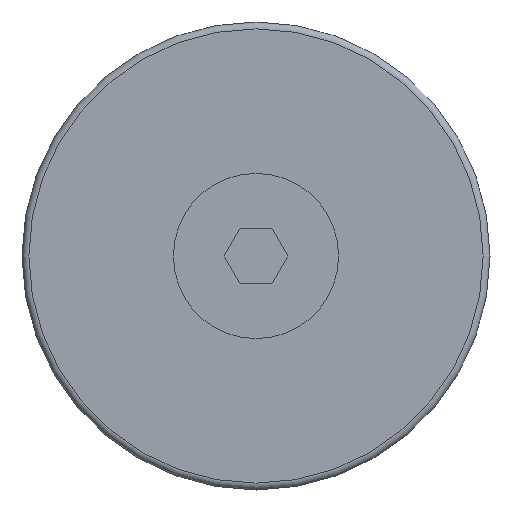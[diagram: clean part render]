
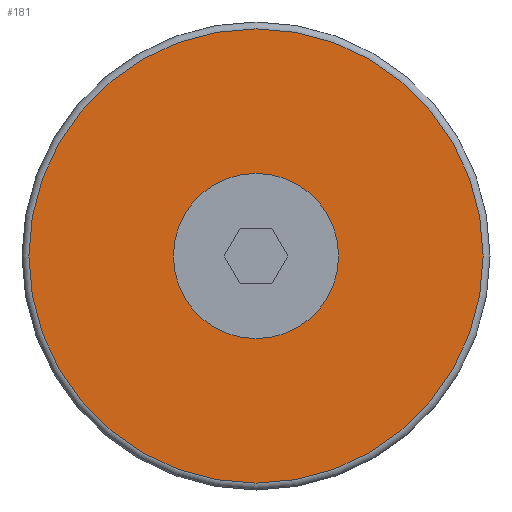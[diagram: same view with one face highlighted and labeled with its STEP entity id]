
A CAD part, front view. The second image highlights one B-rep face of the part: STEP entity #181.
In plain terms, the highlighted planar face has unit normal (0, -1, 0).
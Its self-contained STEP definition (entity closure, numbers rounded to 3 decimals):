
#181=ADVANCED_FACE('',(#261,#262),#263,.F.);
#261=FACE_BOUND('',#400,.T.);
#262=FACE_OUTER_BOUND('',#401,.T.);
#263=PLANE('',#402);
#400=EDGE_LOOP('',(#574));
#401=EDGE_LOOP('',(#575));
#402=AXIS2_PLACEMENT_3D('',#576,#577,#578);
#574=ORIENTED_EDGE('',*,*,#943,.F.);
#575=ORIENTED_EDGE('',*,*,#942,.T.);
#576=CARTESIAN_POINT('',(-16.5,-20.5,0.));
#577=DIRECTION('',(0.0,1.0,0.0));
#578=DIRECTION('',(0.0,0.0,1.0));
#942=EDGE_CURVE('',#1084,#1084,#1085,.T.);
#943=EDGE_CURVE('',#1086,#1086,#1087,.T.);
#1084=VERTEX_POINT('',#1294);
#1085=CIRCLE('',#1295,16.5);
#1086=VERTEX_POINT('',#1296);
#1087=CIRCLE('',#1297,6.0);
#1294=CARTESIAN_POINT('',(0.0,-20.5,-16.5));
#1295=AXIS2_PLACEMENT_3D('',#1650,#1651,#1652);
#1296=CARTESIAN_POINT('',(0.0,-20.5,-6.0));
#1297=AXIS2_PLACEMENT_3D('',#1653,#1654,#1655);
#1650=CARTESIAN_POINT('',(0.0,-20.5,0.));
#1651=DIRECTION('',(0.0,-1.0,0.0));
#1652=DIRECTION('',(0.0,0.0,-1.0));
#1653=CARTESIAN_POINT('',(0.0,-20.5,0.));
#1654=DIRECTION('',(0.0,-1.0,0.0));
#1655=DIRECTION('',(0.0,0.0,-1.0));
